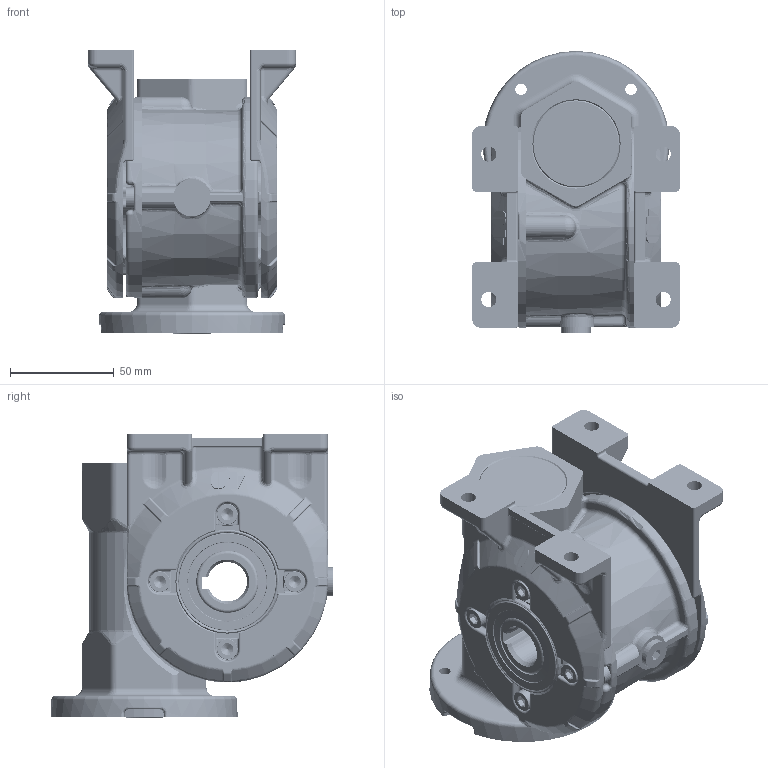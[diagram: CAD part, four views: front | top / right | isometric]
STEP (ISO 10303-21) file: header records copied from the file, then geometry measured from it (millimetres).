
FILE_DESCRIPTION (( 'STEP AP214' ), '1' );
FILE_NAME ('Sestava MRT40A-V.STEP', '2007-03-28T10:50:16', ( '' ), ( '' ), 'SwSTEP 2.0', 'SolidWorks 2004146', '' );
FILE_SCHEMA (( 'AUTOMOTIVE_DESIGN' ));
Length unit declared in the file: millimetre
Products named in the file (18): N024630_Ložisko SKF 6004 ÈSN 024630; Šnek 40_Výchozí; Šnekové kolo 40_Výchozí; Circlip for Shafts normal_din_Circlip DIN 471 - 15 x 1; n029401b_Tìsnìní AS 30x47x7 DIN 3760-NB; pøíruba 40-75_Výchozí; Sestava MRT40A-V; ZatkaM10x1DIN908_M10x1; Adaptér patky 40_Výchozí; D6912_Šroub DIN 6912 - M5x16; n029401b_Tìsnìní AS 20x35x7 DIN 3760-NB; Circlip for Bores normal_din_Circlip DIN 472 - 42 x 1.75; D6912_Šroub DIN 6912 - M6x12; pøíruba FT 40_Výchozí; skøíò_Výchozí; N024630_Ložisko SKF 6006 ÈSN 024630; NBRvíèko42_Výchozí; N024630_Ložisko SKF 6302 ÈSN 024630
Assembly tree (33 placements, depth 2):
  Sestava MRT40A-V
    N024630_Ložisko SKF 6006 ÈSN 024630  x2
    D6912_Šroub DIN 6912 - M6x12  x12
    Adaptér patky 40_Výchozí  x2
    Circlip for Bores normal_din_Circlip DIN 472 - 42 x 1.75
    D6912_Šroub DIN 6912 - M5x16  x3
    n029401b_Tìsnìní AS 20x35x7 DIN 3760-NB
    n029401b_Tìsnìní AS 30x47x7 DIN 3760-NB  x2
    NBRvíèko42_Výchozí
    pøíruba FT 40_Výchozí
    skøíò_Výchozí
    ZatkaM10x1DIN908_M10x1
    Šnek 40_Výchozí
    N024630_Ložisko SKF 6302 ÈSN 024630
    pøíruba 40-75_Výchozí
    Circlip for Shafts normal_din_Circlip DIN 471 - 15 x 1
    Šnekové kolo 40_Výchozí
    N024630_Ložisko SKF 6004 ÈSN 024630
Bounding box: 100 x 136 x 136.5 mm (x, y, z)
Volume: 555011.9 mm3; surface area: 255509.9 mm2
Topology: 33 solids, 33 shells, 4082 faces, 9981 edges, 5696 vertices
Faces by surface type: torus 1022, cylinder 892, bspline 724, plane 634, cone 629, sphere 181
Entity records: 292257 total; most frequent: CARTESIAN_POINT 227691, DIRECTION 13564, ORIENTED_EDGE 13478, EDGE_CURVE 6739, AXIS2_PLACEMENT_3D 6075, VERTEX_POINT 3996, CIRCLE 3744, EDGE_LOOP 2967
